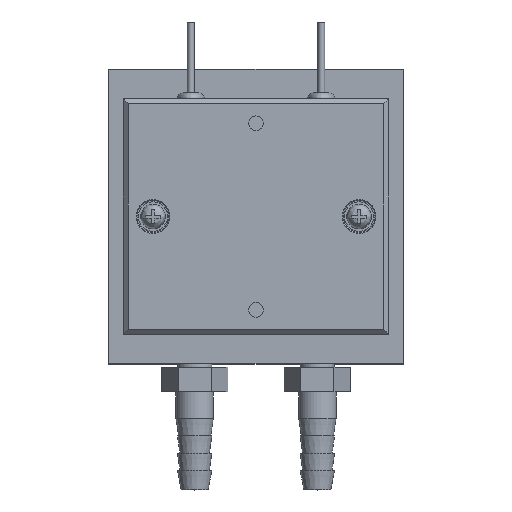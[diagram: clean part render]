
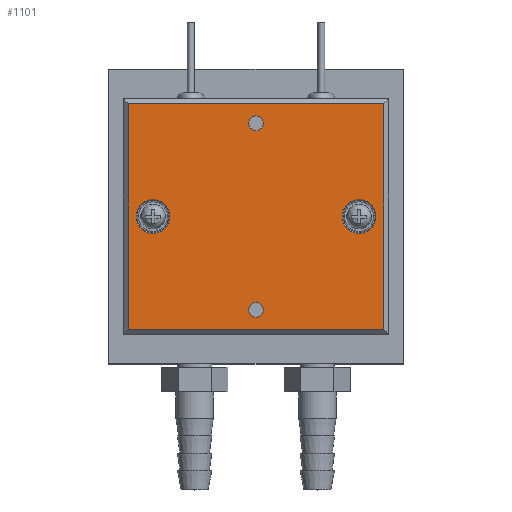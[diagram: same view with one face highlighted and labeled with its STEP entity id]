
A CAD part, top view. The second image highlights one B-rep face of the part: STEP entity #1101.
In plain terms, the highlighted planar face has unit normal (0, 0, 1) as drawn and (0, 0, -1) by its records, which use the part's own axes.
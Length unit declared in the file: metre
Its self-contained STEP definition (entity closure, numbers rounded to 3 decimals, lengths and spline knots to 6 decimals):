
#1101=ADVANCED_FACE('10:84',(#2101,#2102,#2103,#2104,#2105),#2106,.T.);
#2101=FACE_BOUND('',#3837,.T.);
#2102=FACE_OUTER_BOUND('',#3838,.T.);
#2103=FACE_BOUND('',#3839,.T.);
#2104=FACE_BOUND('',#3840,.T.);
#2105=FACE_BOUND('',#3841,.T.);
#2106=PLANE('',#3842);
#3837=EDGE_LOOP('',(#5913));
#3838=EDGE_LOOP('',(#5914,#5915,#5916,#5917));
#3839=EDGE_LOOP('',(#5918));
#3840=EDGE_LOOP('',(#5919));
#3841=EDGE_LOOP('',(#5920));
#3842=AXIS2_PLACEMENT_3D('',#5921,#5922,#5923);
#5913=ORIENTED_EDGE('',*,*,#6852,.F.);
#5914=ORIENTED_EDGE('',*,*,#6853,.F.);
#5915=ORIENTED_EDGE('',*,*,#6854,.F.);
#5916=ORIENTED_EDGE('',*,*,#6855,.F.);
#5917=ORIENTED_EDGE('',*,*,#6856,.F.);
#5918=ORIENTED_EDGE('',*,*,#6857,.F.);
#5919=ORIENTED_EDGE('',*,*,#6858,.F.);
#5920=ORIENTED_EDGE('',*,*,#6859,.F.);
#5921=CARTESIAN_POINT('',(0.06016,0.01082,0.09068));
#5922=DIRECTION('',(0.0,0.,-1.0));
#5923=DIRECTION('',(0.0,1.0,0.));
#6852=EDGE_CURVE('6:17964',#8015,#8015,#8016,.T.);
#6853=EDGE_CURVE('6:11226',#8017,#8018,#8019,.T.);
#6854=EDGE_CURVE('6:2546',#8020,#8017,#8021,.T.);
#6855=EDGE_CURVE('6:7074',#8022,#8020,#8023,.T.);
#6856=EDGE_CURVE('6:9622',#8018,#8022,#8024,.T.);
#6857=EDGE_CURVE('6:17474',#8025,#8025,#8026,.T.);
#6858=EDGE_CURVE('10:517',#8027,#8027,#8028,.T.);
#6859=EDGE_CURVE('10:984',#8029,#8029,#8030,.T.);
#8015=VERTEX_POINT('',#9884);
#8016=CIRCLE('',#9885,0.00345);
#8017=VERTEX_POINT('',#9886);
#8018=VERTEX_POINT('',#9887);
#8019=LINE('',#9888,#9889);
#8020=VERTEX_POINT('',#9890);
#8021=LINE('',#9891,#9892);
#8022=VERTEX_POINT('',#9893);
#8023=LINE('',#9894,#9895);
#8024=LINE('',#9896,#9897);
#8025=VERTEX_POINT('',#9898);
#8026=CIRCLE('',#9899,0.00345);
#8027=VERTEX_POINT('',#9900);
#8028=CIRCLE('',#9901,0.0015);
#8029=VERTEX_POINT('',#9902);
#8030=CIRCLE('',#9903,0.0015);
#9884=CARTESIAN_POINT('',(0.05416,0.02637,0.09068));
#9885=AXIS2_PLACEMENT_3D('',#10663,#10664,#10665);
#9886=CARTESIAN_POINT('',(0.05916,0.05282,0.09068));
#9887=CARTESIAN_POINT('',(0.00716,0.05282,0.09068));
#9888=CARTESIAN_POINT('',(0.04666,0.05282,0.09068));
#9889=VECTOR('',#10666,1.0);
#9890=CARTESIAN_POINT('',(0.05916,0.00682,0.09068));
#9891=CARTESIAN_POINT('',(0.05916,0.02032,0.09068));
#9892=VECTOR('',#10667,1.0);
#9893=CARTESIAN_POINT('',(0.00716,0.00682,0.09068));
#9894=CARTESIAN_POINT('',(0.04666,0.00682,0.09068));
#9895=VECTOR('',#10668,1.0);
#9896=CARTESIAN_POINT('',(0.00716,0.02032,0.09068));
#9897=VECTOR('',#10669,1.0);
#9898=CARTESIAN_POINT('',(0.01216,0.02637,0.09068));
#9899=AXIS2_PLACEMENT_3D('',#10670,#10671,#10672);
#9900=CARTESIAN_POINT('',(0.03316,0.00932,0.09068));
#9901=AXIS2_PLACEMENT_3D('',#10673,#10674,#10675);
#9902=CARTESIAN_POINT('',(0.03316,0.04732,0.09068));
#9903=AXIS2_PLACEMENT_3D('',#10676,#10677,#10678);
#10663=CARTESIAN_POINT('',(0.05416,0.02982,0.09068));
#10664=DIRECTION('',(0.0,0.,-1.0));
#10665=DIRECTION('',(0.0,1.0,0.));
#10666=DIRECTION('',(-1.0,0.,0.0));
#10667=DIRECTION('',(0.,1.0,0.0));
#10668=DIRECTION('',(1.0,0.,0.0));
#10669=DIRECTION('',(0.,-1.0,0.0));
#10670=CARTESIAN_POINT('',(0.01216,0.02982,0.09068));
#10671=DIRECTION('',(0.0,0.,-1.0));
#10672=DIRECTION('',(0.0,1.0,0.));
#10673=CARTESIAN_POINT('',(0.03316,0.01082,0.09068));
#10674=DIRECTION('',(0.0,0.,-1.0));
#10675=DIRECTION('',(0.,-1.0,0.));
#10676=CARTESIAN_POINT('',(0.03316,0.04882,0.09068));
#10677=DIRECTION('',(0.,0.,-1.0));
#10678=DIRECTION('',(0.,-1.0,0.));
